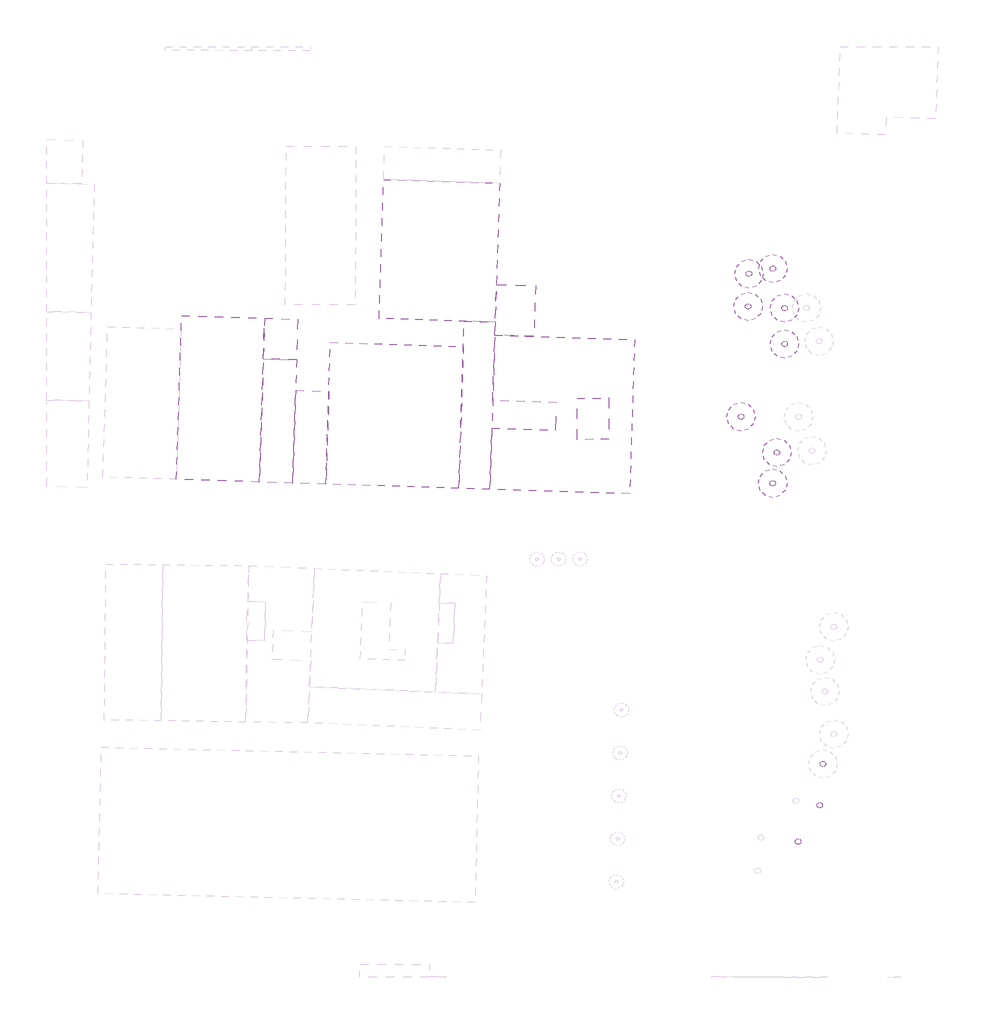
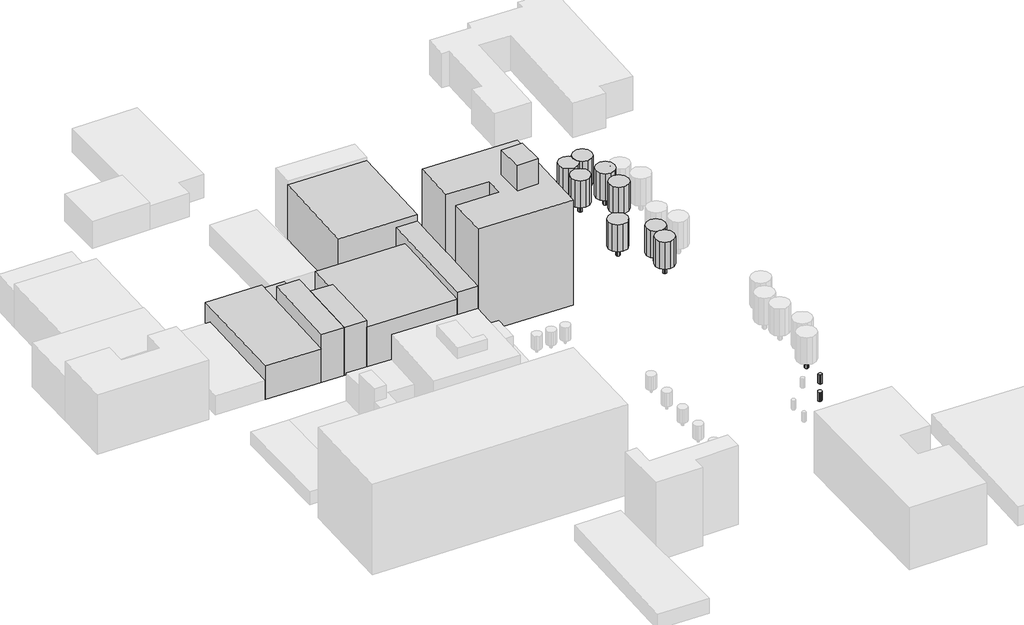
# One storey, part 3 of 4: 29 proxies.
"""IFC4 building model written with IfcOpenShell, lengths in millimetres."""

from ifc_helpers import new_model, si_unit, frame, origin, place, context, project, spatial, polyline, outline, extrude, triangles, element, save

model = new_model("IFC4")

# Units and contexts
model_context = context("Model", 3, world=origin())
ifc_project = project(units=[si_unit("LENGTHUNIT", "METRE", prefix="MILLI")], contexts=[model_context])

# Site, building, storey
site = spatial("IfcSite", under=ifc_project)
building = spatial("IfcBuilding", under=site)
storey = spatial("IfcBuildingStorey", under=building, Name="Terrain Minimum Level", Elevation=-10557.5420791)

# Proxies
placement = place(None, origin())
element("IfcBuildingElementProxy", 1, Name="Generic Models", at=placement, inside=storey, context=model_context, shape_type="Tessellation", body=[
    triangles([(118338.0977051, 115727.7082031, -839.9583956), (118338.0977051, 116337.3082031, -839.9583956), (118114.9671387, 116560.4387695, -839.9583956), (117810.1671387, 116642.1082031, -839.9583956), (117505.3671387, 116560.4387695, -839.9583956), (117505.3671387, 115504.5776367, -839.9583956), (118114.9671387, 115504.5776367, -839.9583956), (117810.1671387, 115422.9082031, -839.9583956), (118114.9671387, 115504.5776367, -3887.9586136), (117810.1671387, 115422.9082031, -3887.9586136), (117282.2365723, 115727.7082031, -3887.9586136), (117810.1671387, 116642.1082031, -3887.9586136), (118114.9671387, 116560.4387695, -3887.9586136), (118338.0977051, 116337.3082031, -3887.9586136), (118419.7671387, 116032.5082031, -3887.9586136), (118338.0977051, 115727.7082031, -3887.9586136), (118419.7671387, 116032.5082031, -839.9583956), (117505.3671387, 116560.4387695, -3887.9586136), (117282.2365723, 116337.3082031, -3887.9586136), (117282.2365723, 116337.3082031, -839.9583956), (117200.5671387, 116032.5082031, -3887.9586136), (117282.2365723, 115727.7082031, -839.9583956), (117200.5671387, 116032.5082031, -839.9583956), (117505.3671387, 115504.5776367, -3887.9586136)], [[16, 17, 1], [16, 15, 17], [9, 1, 7], [9, 16, 1], [10, 7, 8], [10, 9, 7], [24, 8, 6], [24, 10, 8], [11, 6, 22], [11, 24, 6], [21, 22, 23], [21, 11, 22], [19, 23, 20], [19, 21, 23], [18, 20, 5], [18, 19, 20], [12, 5, 4], [12, 18, 5], [13, 4, 3], [13, 12, 4], [14, 3, 2], [14, 13, 3], [15, 2, 17], [15, 14, 2], [14, 15, 16], [12, 13, 14], [19, 18, 12], [11, 21, 19], [10, 24, 11], [16, 9, 10], [12, 14, 16], [11, 19, 12], [16, 10, 11], [11, 12, 16], [1, 4, 22], [22, 8, 1], [4, 20, 22], [1, 2, 4], [8, 7, 1], [22, 6, 8], [20, 23, 22], [4, 5, 20], [2, 3, 4], [1, 17, 2]]),
])
element("IfcBuildingElementProxy", 2, Name="Generic Models", at=placement, inside=storey, context=model_context, shape_type="Tessellation", body=[
    triangles([(120449.8106689, 114508.5082031, 8304.0419678), (120449.8106689, 117556.5082031, 8304.0419678), (119334.1671387, 118672.1517334, 8304.0419678), (117810.1671387, 119080.5082031, 8304.0419678), (116286.1671387, 118672.1517334, 8304.0419678), (116286.1671387, 113392.8646729, 8304.0419678), (119334.1671387, 113392.8646729, 8304.0419678), (117810.1671387, 112984.5082031, 8304.0419678), (119334.1671387, 113392.8646729, -839.9583956), (117810.1671387, 112984.5082031, -839.9583956), (115170.5236084, 114508.5082031, -839.9583956), (117810.1671387, 119080.5082031, -839.9583956), (119334.1671387, 118672.1517334, -839.9583956), (120449.8106689, 117556.5082031, -839.9583956), (120858.1671387, 116032.5082031, -839.9583956), (120449.8106689, 114508.5082031, -839.9583956), (120858.1671387, 116032.5082031, 8304.0419678), (116286.1671387, 118672.1517334, -839.9583956), (115170.5236084, 117556.5082031, -839.9583956), (115170.5236084, 117556.5082031, 8304.0419678), (114762.1671387, 116032.5082031, -839.9583956), (115170.5236084, 114508.5082031, 8304.0419678), (114762.1671387, 116032.5082031, 8304.0419678), (116286.1671387, 113392.8646729, -839.9583956)], [[16, 17, 1], [16, 15, 17], [9, 1, 7], [9, 16, 1], [10, 7, 8], [10, 9, 7], [24, 8, 6], [24, 10, 8], [11, 6, 22], [11, 24, 6], [21, 22, 23], [21, 11, 22], [19, 23, 20], [19, 21, 23], [18, 20, 5], [18, 19, 20], [12, 5, 4], [12, 18, 5], [13, 4, 3], [13, 12, 4], [14, 3, 2], [14, 13, 3], [15, 2, 17], [15, 14, 2], [14, 15, 16], [12, 13, 14], [19, 18, 12], [11, 21, 19], [10, 24, 11], [16, 9, 10], [12, 14, 16], [11, 19, 12], [16, 10, 11], [11, 12, 16], [1, 4, 22], [22, 8, 1], [4, 20, 22], [1, 2, 4], [8, 7, 1], [22, 6, 8], [20, 23, 22], [4, 5, 20], [2, 3, 4], [1, 17, 2]]),
])
element("IfcBuildingElementProxy", 3, Name="Generic Models", at=placement, inside=storey, context=model_context, shape_type="Tessellation", body=[
    triangles([(118504.7386963, 122688.9577148, -1000.6746031), (118504.7386963, 123298.5577148, -1000.6746031), (118281.6081299, 123521.6882813, -1000.6746031), (117976.8081299, 123603.3577148, -1000.6746031), (117672.0081299, 123521.6882813, -1000.6746031), (117672.0081299, 122465.8271484, -1000.6746031), (118281.6081299, 122465.8271484, -1000.6746031), (117976.8081299, 122384.1577148, -1000.6746031), (118281.6081299, 122465.8271484, -4048.6746758), (117976.8081299, 122384.1577148, -4048.6746758), (117448.8775635, 122688.9577148, -4048.6746758), (117976.8081299, 123603.3577148, -4048.6746758), (118281.6081299, 123521.6882813, -4048.6746758), (118504.7386963, 123298.5577148, -4048.6746758), (118586.4081299, 122993.7577148, -4048.6746758), (118504.7386963, 122688.9577148, -4048.6746758), (118586.4081299, 122993.7577148, -1000.6746031), (117672.0081299, 123521.6882813, -4048.6746758), (117448.8775635, 123298.5577148, -4048.6746758), (117448.8775635, 123298.5577148, -1000.6746031), (117367.2081299, 122993.7577148, -4048.6746758), (117448.8775635, 122688.9577148, -1000.6746031), (117367.2081299, 122993.7577148, -1000.6746031), (117672.0081299, 122465.8271484, -4048.6746758)], [[16, 17, 1], [16, 15, 17], [9, 1, 7], [9, 16, 1], [10, 7, 8], [10, 9, 7], [24, 8, 6], [24, 10, 8], [11, 6, 22], [11, 24, 6], [21, 22, 23], [21, 11, 22], [19, 23, 20], [19, 21, 23], [18, 20, 5], [18, 19, 20], [12, 5, 4], [12, 18, 5], [13, 4, 3], [13, 12, 4], [14, 3, 2], [14, 13, 3], [15, 2, 17], [15, 14, 2], [14, 15, 16], [12, 13, 14], [19, 18, 12], [11, 21, 19], [10, 24, 11], [16, 9, 10], [12, 14, 16], [11, 19, 12], [16, 10, 11], [11, 12, 16], [1, 4, 22], [22, 8, 1], [4, 20, 22], [1, 2, 4], [8, 7, 1], [22, 6, 8], [20, 23, 22], [4, 5, 20], [2, 3, 4], [1, 17, 2]]),
])
element("IfcBuildingElementProxy", 4, Name="Generic Models", at=placement, inside=storey, context=model_context, shape_type="Tessellation", body=[
    triangles([(120616.4516602, 121469.7577148, 8143.3256149), (120616.4516602, 124517.7577148, 8143.3256149), (119500.8081299, 125633.4012451, 8143.3256149), (117976.8081299, 126041.7577148, 8143.3256149), (116452.8081299, 125633.4012451, 8143.3256149), (116452.8081299, 120354.1141846, 8143.3256149), (119500.8081299, 120354.1141846, 8143.3256149), (117976.8081299, 119945.7577148, 8143.3256149), (119500.8081299, 120354.1141846, -1000.6746031), (117976.8081299, 119945.7577148, -1000.6746031), (115337.1645996, 121469.7577148, -1000.6746031), (117976.8081299, 126041.7577148, -1000.6746031), (119500.8081299, 125633.4012451, -1000.6746031), (120616.4516602, 124517.7577148, -1000.6746031), (121024.8081299, 122993.7577148, -1000.6746031), (120616.4516602, 121469.7577148, -1000.6746031), (121024.8081299, 122993.7577148, 8143.3256149), (116452.8081299, 125633.4012451, -1000.6746031), (115337.1645996, 124517.7577148, -1000.6746031), (115337.1645996, 124517.7577148, 8143.3256149), (114928.8081299, 122993.7577148, -1000.6746031), (115337.1645996, 121469.7577148, 8143.3256149), (114928.8081299, 122993.7577148, 8143.3256149), (116452.8081299, 120354.1141846, -1000.6746031)], [[16, 17, 1], [16, 15, 17], [9, 1, 7], [9, 16, 1], [10, 7, 8], [10, 9, 7], [24, 8, 6], [24, 10, 8], [11, 6, 22], [11, 24, 6], [21, 22, 23], [21, 11, 22], [19, 23, 20], [19, 21, 23], [18, 20, 5], [18, 19, 20], [12, 5, 4], [12, 18, 5], [13, 4, 3], [13, 12, 4], [14, 3, 2], [14, 13, 3], [15, 2, 17], [15, 14, 2], [14, 15, 16], [12, 13, 14], [19, 18, 12], [11, 21, 19], [10, 24, 11], [16, 9, 10], [12, 14, 16], [11, 19, 12], [16, 10, 11], [11, 12, 16], [1, 4, 22], [22, 8, 1], [4, 20, 22], [1, 2, 4], [8, 7, 1], [22, 6, 8], [20, 23, 22], [4, 5, 20], [2, 3, 4], [1, 17, 2]]),
])
element("IfcBuildingElementProxy", 5, Name="Generic Models", at=placement, inside=storey, context=model_context, shape_type="Tessellation", body=[
    triangles([(126087.6246826, 107750.0463135, -847.6013157), (126087.6246826, 108359.6463135, -847.6013157), (125864.4941162, 108582.7768799, -847.6013157), (125559.6941162, 108664.4463135, -847.6013157), (125254.8941162, 108582.7768799, -847.6013157), (125254.8941162, 107526.9157471, -847.6013157), (125864.4941162, 107526.9157471, -847.6013157), (125559.6941162, 107445.2463135, -847.6013157), (125864.4941162, 107526.9157471, -3895.601461), (125559.6941162, 107445.2463135, -3895.601461), (125031.7728516, 107750.0463135, -3895.601461), (125559.6941162, 108664.4463135, -3895.601461), (125864.4941162, 108582.7768799, -3895.601461), (126087.6246826, 108359.6463135, -3895.601461), (126169.2941162, 108054.8463135, -3895.601461), (126087.6246826, 107750.0463135, -3895.601461), (126169.2941162, 108054.8463135, -847.6013157), (125254.8941162, 108582.7768799, -3895.601461), (125031.7728516, 108359.6463135, -3895.601461), (125031.7728516, 108359.6463135, -847.6013157), (124950.0941162, 108054.8463135, -3895.601461), (125031.7728516, 107750.0463135, -847.6013157), (124950.0941162, 108054.8463135, -847.6013157), (125254.8941162, 107526.9157471, -3895.601461)], [[16, 17, 1], [16, 15, 17], [9, 1, 7], [9, 16, 1], [10, 7, 8], [10, 9, 7], [24, 8, 6], [24, 10, 8], [11, 6, 22], [11, 24, 6], [21, 22, 23], [21, 11, 22], [19, 23, 20], [19, 21, 23], [18, 20, 5], [18, 19, 20], [12, 5, 4], [12, 18, 5], [13, 4, 3], [13, 12, 4], [14, 3, 2], [14, 13, 3], [15, 2, 17], [15, 14, 2], [14, 15, 16], [12, 13, 14], [19, 18, 12], [11, 21, 19], [10, 24, 11], [16, 9, 10], [12, 14, 16], [11, 19, 12], [16, 10, 11], [11, 12, 16], [1, 4, 22], [22, 8, 1], [4, 20, 22], [1, 2, 4], [8, 7, 1], [22, 6, 8], [20, 23, 22], [4, 5, 20], [2, 3, 4], [1, 17, 2]]),
])
element("IfcBuildingElementProxy", 6, Name="Generic Models", at=placement, inside=storey, context=model_context, shape_type="Tessellation", body=[
    triangles([(128199.3469482, 106530.8463135, 8296.3988297), (128199.3469482, 109578.8463135, 8296.3988297), (127083.6941162, 110694.4898438, 8296.3988297), (125559.6941162, 111102.8463135, 8296.3988297), (124035.6941162, 110694.4898438, 8296.3988297), (124035.6941162, 105415.1934814, 8296.3988297), (127083.6941162, 105415.1934814, 8296.3988297), (125559.6941162, 105006.8463135, 8296.3988297), (127083.6941162, 105415.1934814, -847.6013157), (125559.6941162, 105006.8463135, -847.6013157), (122920.0505859, 106530.8463135, -847.6013157), (125559.6941162, 111102.8463135, -847.6013157), (127083.6941162, 110694.4898438, -847.6013157), (128199.3469482, 109578.8463135, -847.6013157), (128607.6941162, 108054.8463135, -847.6013157), (128199.3469482, 106530.8463135, -847.6013157), (128607.6941162, 108054.8463135, 8296.3988297), (124035.6941162, 110694.4898438, -847.6013157), (122920.0505859, 109578.8463135, -847.6013157), (122920.0505859, 109578.8463135, 8296.3988297), (122511.6941162, 108054.8463135, -847.6013157), (122920.0505859, 106530.8463135, 8296.3988297), (122511.6941162, 108054.8463135, 8296.3988297), (124035.6941162, 105415.1934814, -847.6013157)], [[16, 17, 1], [16, 15, 17], [9, 1, 7], [9, 16, 1], [10, 7, 8], [10, 9, 7], [24, 8, 6], [24, 10, 8], [11, 6, 22], [11, 24, 6], [21, 22, 23], [21, 11, 22], [19, 23, 20], [19, 21, 23], [18, 20, 5], [18, 19, 20], [12, 5, 4], [12, 18, 5], [13, 4, 3], [13, 12, 4], [14, 3, 2], [14, 13, 3], [15, 2, 17], [15, 14, 2], [14, 15, 16], [12, 13, 14], [19, 18, 12], [11, 21, 19], [10, 24, 11], [16, 9, 10], [12, 14, 16], [11, 19, 12], [16, 10, 11], [11, 12, 16], [1, 4, 22], [22, 8, 1], [4, 20, 22], [1, 2, 4], [8, 7, 1], [22, 6, 8], [20, 23, 22], [4, 5, 20], [2, 3, 4], [1, 17, 2]]),
])
element("IfcBuildingElementProxy", 7, Name="Generic Models", at=placement, inside=storey, context=model_context, shape_type="Tessellation", body=[
    triangles([(126082.0157227, 115393.9704346, -961.0866852), (126082.0157227, 116003.5704346, -961.0866852), (125858.8851563, 116226.701001, -961.0866852), (125554.0851563, 116308.3704346, -961.0866852), (125249.2851562, 116226.701001, -961.0866852), (125249.2851562, 115170.8398682, -961.0866852), (125858.8851563, 115170.8398682, -961.0866852), (125554.0851563, 115089.1704346, -961.0866852), (125858.8851563, 115170.8398682, -4009.0866852), (125554.0851563, 115089.1704346, -4009.0866852), (125026.1545898, 115393.9704346, -4009.0866852), (125554.0851563, 116308.3704346, -4009.0866852), (125858.8851563, 116226.701001, -4009.0866852), (126082.0157227, 116003.5704346, -4009.0866852), (126163.6851563, 115698.7704346, -4009.0866852), (126082.0157227, 115393.9704346, -4009.0866852), (126163.6851563, 115698.7704346, -961.0866852), (125249.2851562, 116226.701001, -4009.0866852), (125026.1545898, 116003.5704346, -4009.0866852), (125026.1545898, 116003.5704346, -961.0866852), (124944.4851563, 115698.7704346, -4009.0866852), (125026.1545898, 115393.9704346, -961.0866852), (124944.4851563, 115698.7704346, -961.0866852), (125249.2851562, 115170.8398682, -4009.0866852)], [[16, 17, 1], [16, 15, 17], [9, 1, 7], [9, 16, 1], [10, 7, 8], [10, 9, 7], [24, 8, 6], [24, 10, 8], [11, 6, 22], [11, 24, 6], [21, 22, 23], [21, 11, 22], [19, 23, 20], [19, 21, 23], [18, 20, 5], [18, 19, 20], [12, 5, 4], [12, 18, 5], [13, 4, 3], [13, 12, 4], [14, 3, 2], [14, 13, 3], [15, 2, 17], [15, 14, 2], [14, 15, 16], [12, 13, 14], [19, 18, 12], [11, 21, 19], [10, 24, 11], [16, 9, 10], [12, 14, 16], [11, 19, 12], [16, 10, 11], [11, 12, 16], [1, 4, 22], [22, 8, 1], [4, 20, 22], [1, 2, 4], [8, 7, 1], [22, 6, 8], [20, 23, 22], [4, 5, 20], [2, 3, 4], [1, 17, 2]]),
])
element("IfcBuildingElementProxy", 8, Name="Generic Models", at=placement, inside=storey, context=model_context, shape_type="Tessellation", body=[
    triangles([(128193.7286865, 114174.7704346, 8182.9138962), (128193.7286865, 117222.7704346, 8182.9138962), (127078.0851563, 118338.4139648, 8182.9138962), (125554.0851563, 118746.7704346, 8182.9138962), (124030.0851563, 118338.4139648, 8182.9138962), (124030.0851563, 113059.1176025, 8182.9138962), (127078.0851563, 113059.1176025, 8182.9138962), (125554.0851563, 112650.7704346, 8182.9138962), (127078.0851563, 113059.1176025, -961.0866852), (125554.0851563, 112650.7704346, -961.0866852), (122914.441626, 114174.7704346, -961.0866852), (125554.0851563, 118746.7704346, -961.0866852), (127078.0851563, 118338.4139648, -961.0866852), (128193.7286865, 117222.7704346, -961.0866852), (128602.0851563, 115698.7704346, -961.0866852), (128193.7286865, 114174.7704346, -961.0866852), (128602.0851563, 115698.7704346, 8182.9138962), (124030.0851563, 118338.4139648, -961.0866852), (122914.441626, 117222.7704346, -961.0866852), (122914.441626, 117222.7704346, 8182.9138962), (122506.0851563, 115698.7704346, -961.0866852), (122914.441626, 114174.7704346, 8182.9138962), (122506.0851563, 115698.7704346, 8182.9138962), (124030.0851563, 113059.1176025, -961.0866852)], [[16, 17, 1], [16, 15, 17], [9, 1, 7], [9, 16, 1], [10, 7, 8], [10, 9, 7], [24, 8, 6], [24, 10, 8], [11, 6, 22], [11, 24, 6], [21, 22, 23], [21, 11, 22], [19, 23, 20], [19, 21, 23], [18, 20, 5], [18, 19, 20], [12, 5, 4], [12, 18, 5], [13, 4, 3], [13, 12, 4], [14, 3, 2], [14, 13, 3], [15, 2, 17], [15, 14, 2], [14, 15, 16], [12, 13, 14], [19, 18, 12], [11, 21, 19], [10, 24, 11], [16, 9, 10], [12, 14, 16], [11, 19, 12], [16, 10, 11], [11, 12, 16], [1, 4, 22], [22, 8, 1], [4, 20, 22], [1, 2, 4], [8, 7, 1], [22, 6, 8], [20, 23, 22], [4, 5, 20], [2, 3, 4], [1, 17, 2]]),
])
element("IfcBuildingElementProxy", 9, Name="Generic Models", at=placement, inside=storey, context=model_context, shape_type="Tessellation", body=[
    triangles([(123604.0274414, 123806.5360107, -971.3971024), (123604.0274414, 124416.1360107, -971.3971024), (123380.9061768, 124639.2665771, -971.3971024), (123076.1061768, 124720.9360107, -971.3971024), (122771.3061768, 124639.2665771, -971.3971024), (122771.3061768, 123583.4054443, -971.3971024), (123380.9061768, 123583.4054443, -971.3971024), (123076.1061768, 123501.7360107, -971.3971024), (123380.9061768, 123583.4054443, -4019.3971024), (123076.1061768, 123501.7360107, -4019.3971024), (122548.1756104, 123806.5360107, -4019.3971024), (123076.1061768, 124720.9360107, -4019.3971024), (123380.9061768, 124639.2665771, -4019.3971024), (123604.0274414, 124416.1360107, -4019.3971024), (123685.7061768, 124111.3360107, -4019.3971024), (123604.0274414, 123806.5360107, -4019.3971024), (123685.7061768, 124111.3360107, -971.3971024), (122771.3061768, 124639.2665771, -4019.3971024), (122548.1756104, 124416.1360107, -4019.3971024), (122548.1756104, 124416.1360107, -971.3971024), (122466.5061768, 124111.3360107, -4019.3971024), (122548.1756104, 123806.5360107, -971.3971024), (122466.5061768, 124111.3360107, -971.3971024), (122771.3061768, 123583.4054443, -4019.3971024)], [[16, 17, 1], [16, 15, 17], [9, 1, 7], [9, 16, 1], [10, 7, 8], [10, 9, 7], [24, 8, 6], [24, 10, 8], [11, 6, 22], [11, 24, 6], [21, 22, 23], [21, 11, 22], [19, 23, 20], [19, 21, 23], [18, 20, 5], [18, 19, 20], [12, 5, 4], [12, 18, 5], [13, 4, 3], [13, 12, 4], [14, 3, 2], [14, 13, 3], [15, 2, 17], [15, 14, 2], [14, 15, 16], [12, 13, 14], [19, 18, 12], [11, 21, 19], [10, 24, 11], [16, 9, 10], [12, 14, 16], [11, 19, 12], [16, 10, 11], [11, 12, 16], [1, 4, 22], [22, 8, 1], [4, 20, 22], [1, 2, 4], [8, 7, 1], [22, 6, 8], [20, 23, 22], [4, 5, 20], [2, 3, 4], [1, 17, 2]]),
])
element("IfcBuildingElementProxy", 10, Name="Generic Models", at=placement, inside=storey, context=model_context, shape_type="Tessellation", body=[
    triangles([(125715.749707, 122587.3360107, 8172.603479), (125715.749707, 125635.3360107, 8172.603479), (124600.1061768, 126750.979541, 8172.603479), (123076.1061768, 127159.3360107, 8172.603479), (121552.1061768, 126750.979541, 8172.603479), (121552.1061768, 121471.6924805, 8172.603479), (124600.1061768, 121471.6924805, 8172.603479), (123076.1061768, 121063.3360107, 8172.603479), (124600.1061768, 121471.6924805, -971.3971024), (123076.1061768, 121063.3360107, -971.3971024), (120436.4533447, 122587.3360107, -971.3971024), (123076.1061768, 127159.3360107, -971.3971024), (124600.1061768, 126750.979541, -971.3971024), (125715.749707, 125635.3360107, -971.3971024), (126124.1061768, 124111.3360107, -971.3971024), (125715.749707, 122587.3360107, -971.3971024), (126124.1061768, 124111.3360107, 8172.603479), (121552.1061768, 126750.979541, -971.3971024), (120436.4533447, 125635.3360107, -971.3971024), (120436.4533447, 125635.3360107, 8172.603479), (120028.1061768, 124111.3360107, -971.3971024), (120436.4533447, 122587.3360107, 8172.603479), (120028.1061768, 124111.3360107, 8172.603479), (121552.1061768, 121471.6924805, -971.3971024)], [[16, 17, 1], [16, 15, 17], [9, 1, 7], [9, 16, 1], [10, 7, 8], [10, 9, 7], [24, 8, 6], [24, 10, 8], [11, 6, 22], [11, 24, 6], [21, 22, 23], [21, 11, 22], [19, 23, 20], [19, 21, 23], [18, 20, 5], [18, 19, 20], [12, 5, 4], [12, 18, 5], [13, 4, 3], [13, 12, 4], [14, 3, 2], [14, 13, 3], [15, 2, 17], [15, 14, 2], [14, 15, 16], [12, 13, 14], [19, 18, 12], [11, 21, 19], [10, 24, 11], [16, 9, 10], [12, 14, 16], [11, 19, 12], [16, 10, 11], [11, 12, 16], [1, 4, 22], [22, 8, 1], [4, 20, 22], [1, 2, 4], [8, 7, 1], [22, 6, 8], [20, 23, 22], [4, 5, 20], [2, 3, 4], [1, 17, 2]]),
])
element("IfcBuildingElementProxy", 11, Name="Generic Models", at=placement, inside=storey, context=model_context, shape_type="Tessellation", body=[
    triangles([(116827.9015137, 92269.019165, -912.0074862), (116827.9015137, 92878.619165, -912.0074862), (116604.780249, 93101.7497314, -912.0074862), (116299.980249, 93183.419165, -912.0074862), (115995.180249, 93101.7497314, -912.0074862), (115995.180249, 92045.8885986, -912.0074862), (116604.780249, 92045.8885986, -912.0074862), (116299.980249, 91964.219165, -912.0074862), (116604.780249, 92045.8885986, -3960.0077042), (116299.980249, 91964.219165, -3960.0077042), (115772.0496826, 92269.019165, -3960.0077042), (116299.980249, 93183.419165, -3960.0077042), (116604.780249, 93101.7497314, -3960.0077042), (116827.9015137, 92878.619165, -3960.0077042), (116909.580249, 92573.819165, -3960.0077042), (116827.9015137, 92269.019165, -3960.0077042), (116909.580249, 92573.819165, -912.0074862), (115995.180249, 93101.7497314, -3960.0077042), (115772.0496826, 92878.619165, -3960.0077042), (115772.0496826, 92878.619165, -912.0074862), (115690.380249, 92573.819165, -3960.0077042), (115772.0496826, 92269.019165, -912.0074862), (115690.380249, 92573.819165, -912.0074862), (115995.180249, 92045.8885986, -3960.0077042)], [[16, 17, 1], [16, 15, 17], [9, 1, 7], [9, 16, 1], [10, 7, 8], [10, 9, 7], [24, 8, 6], [24, 10, 8], [11, 6, 22], [11, 24, 6], [21, 22, 23], [21, 11, 22], [19, 23, 20], [19, 21, 23], [18, 20, 5], [18, 19, 20], [12, 5, 4], [12, 18, 5], [13, 4, 3], [13, 12, 4], [14, 3, 2], [14, 13, 3], [15, 2, 17], [15, 14, 2], [14, 15, 16], [12, 13, 14], [19, 18, 12], [11, 21, 19], [10, 24, 11], [16, 9, 10], [12, 14, 16], [11, 19, 12], [16, 10, 11], [11, 12, 16], [1, 4, 22], [22, 8, 1], [4, 20, 22], [1, 2, 4], [8, 7, 1], [22, 6, 8], [20, 23, 22], [4, 5, 20], [2, 3, 4], [1, 17, 2]]),
])
element("IfcBuildingElementProxy", 12, Name="Generic Models", at=placement, inside=storey, context=model_context, shape_type="Tessellation", body=[
    triangles([(118939.6237793, 91049.819165, 8231.9928772), (118939.6237793, 94097.819165, 8231.9928772), (117823.980249, 95213.4626953, 8231.9928772), (116299.980249, 95621.819165, 8231.9928772), (114775.980249, 95213.4626953, 8231.9928772), (114775.980249, 89934.1756348, 8231.9928772), (117823.980249, 89934.1756348, 8231.9928772), (116299.980249, 89525.819165, 8231.9928772), (117823.980249, 89934.1756348, -912.0074862), (116299.980249, 89525.819165, -912.0074862), (113660.327417, 91049.819165, -912.0074862), (116299.980249, 95621.819165, -912.0074862), (117823.980249, 95213.4626953, -912.0074862), (118939.6237793, 94097.819165, -912.0074862), (119347.980249, 92573.819165, -912.0074862), (118939.6237793, 91049.819165, -912.0074862), (119347.980249, 92573.819165, 8231.9928772), (114775.980249, 95213.4626953, -912.0074862), (113660.327417, 94097.819165, -912.0074862), (113660.327417, 94097.819165, 8231.9928772), (113251.980249, 92573.819165, -912.0074862), (113660.327417, 91049.819165, 8231.9928772), (113251.980249, 92573.819165, 8231.9928772), (114775.980249, 89934.1756348, -912.0074862)], [[16, 17, 1], [16, 15, 17], [9, 1, 7], [9, 16, 1], [10, 7, 8], [10, 9, 7], [24, 8, 6], [24, 10, 8], [11, 6, 22], [11, 24, 6], [21, 22, 23], [21, 11, 22], [19, 23, 20], [19, 21, 23], [18, 20, 5], [18, 19, 20], [12, 5, 4], [12, 18, 5], [13, 4, 3], [13, 12, 4], [14, 3, 2], [14, 13, 3], [15, 2, 17], [15, 14, 2], [14, 15, 16], [12, 13, 14], [19, 18, 12], [11, 21, 19], [10, 24, 11], [16, 9, 10], [12, 14, 16], [11, 19, 12], [16, 10, 11], [11, 12, 16], [1, 4, 22], [22, 8, 1], [4, 20, 22], [1, 2, 4], [8, 7, 1], [22, 6, 8], [20, 23, 22], [4, 5, 20], [2, 3, 4], [1, 17, 2]]),
])
element("IfcBuildingElementProxy", 13, Name="Generic Models", at=placement, inside=storey, context=model_context, shape_type="Tessellation", body=[
    triangles([(123562.6253174, 78118.3945312, -570.8405562), (123562.6253174, 78727.9945313, -570.8405562), (123339.494751, 78951.1157959, -570.8405562), (123034.694751, 79032.7945313, -570.8405562), (122729.894751, 78951.1157959, -570.8405562), (122729.894751, 77895.259314, -570.8405562), (123339.494751, 77895.259314, -570.8405562), (123034.694751, 77813.5898804, -570.8405562), (123339.494751, 77895.259314, -3618.8407379), (123034.694751, 77813.5898804, -3618.8407379), (122506.7641846, 78118.3945312, -3618.8407379), (123034.694751, 79032.7945313, -3618.8407379), (123339.494751, 78951.1157959, -3618.8407379), (123562.6253174, 78727.9945313, -3618.8407379), (123644.294751, 78423.1945313, -3618.8407379), (123562.6253174, 78118.3945312, -3618.8407379), (123644.294751, 78423.1945313, -570.8405562), (122729.894751, 78951.1157959, -3618.8407379), (122506.7641846, 78727.9945313, -3618.8407379), (122506.7641846, 78727.9945313, -570.8405562), (122425.094751, 78423.1945313, -3618.8407379), (122506.7641846, 78118.3945312, -570.8405562), (122425.094751, 78423.1945313, -570.8405562), (122729.894751, 77895.259314, -3618.8407379)], [[16, 17, 1], [16, 15, 17], [9, 1, 7], [9, 16, 1], [10, 7, 8], [10, 9, 7], [24, 8, 6], [24, 10, 8], [11, 6, 22], [11, 24, 6], [21, 22, 23], [21, 11, 22], [19, 23, 20], [19, 21, 23], [18, 20, 5], [18, 19, 20], [12, 5, 4], [12, 18, 5], [13, 4, 3], [13, 12, 4], [14, 3, 2], [14, 13, 3], [15, 2, 17], [15, 14, 2], [14, 15, 16], [12, 13, 14], [19, 18, 12], [11, 21, 19], [10, 24, 11], [16, 9, 10], [12, 14, 16], [11, 19, 12], [16, 10, 11], [11, 12, 16], [1, 4, 22], [22, 8, 1], [4, 20, 22], [1, 2, 4], [8, 7, 1], [22, 6, 8], [20, 23, 22], [4, 5, 20], [2, 3, 4], [1, 17, 2]]),
])
element("IfcBuildingElementProxy", 14, Name="Generic Models", at=placement, inside=storey, context=model_context, shape_type="Tessellation", body=[
    triangles([(125674.3382813, 76899.1898804, 8573.1598434), (125674.3382813, 79947.1945313, 8573.1598434), (124558.694751, 81062.8380615, 8573.1598434), (123034.694751, 81471.1945313, 8573.1598434), (121510.694751, 81062.8380615, 8573.1598434), (121510.694751, 75783.5463501, 8573.1598434), (124558.694751, 75783.5463501, 8573.1598434), (123034.694751, 75375.1898804, 8573.1598434), (124558.694751, 75783.5463501, -570.8405562), (123034.694751, 75375.1898804, -570.8405562), (120395.0512207, 76899.1898804, -570.8405562), (123034.694751, 81471.1945313, -570.8405562), (124558.694751, 81062.8380615, -570.8405562), (125674.3382813, 79947.1945313, -570.8405562), (126082.694751, 78423.1945313, -570.8405562), (125674.3382813, 76899.1898804, -570.8405562), (126082.694751, 78423.1945313, 8573.1598434), (121510.694751, 81062.8380615, -570.8405562), (120395.0512207, 79947.1945313, -570.8405562), (120395.0512207, 79947.1945313, 8573.1598434), (119986.694751, 78423.1945313, -570.8405562), (120395.0512207, 76899.1898804, 8573.1598434), (119986.694751, 78423.1945313, 8573.1598434), (121510.694751, 75783.5463501, -570.8405562)], [[16, 17, 1], [16, 15, 17], [9, 1, 7], [9, 16, 1], [10, 7, 8], [10, 9, 7], [24, 8, 6], [24, 10, 8], [11, 6, 22], [11, 24, 6], [21, 22, 23], [21, 11, 22], [19, 23, 20], [19, 21, 23], [18, 20, 5], [18, 19, 20], [12, 5, 4], [12, 18, 5], [13, 4, 3], [13, 12, 4], [14, 3, 2], [14, 13, 3], [15, 2, 17], [15, 14, 2], [14, 15, 16], [12, 13, 14], [19, 18, 12], [11, 21, 19], [10, 24, 11], [16, 9, 10], [12, 14, 16], [11, 19, 12], [16, 10, 11], [11, 12, 16], [1, 4, 22], [22, 8, 1], [4, 20, 22], [1, 2, 4], [8, 7, 1], [22, 6, 8], [20, 23, 22], [4, 5, 20], [2, 3, 4], [1, 17, 2]]),
])
element("IfcBuildingElementProxy", 15, Name="Generic Models", at=placement, inside=storey, context=model_context, shape_type="Tessellation", body=[
    triangles([(124447.9015137, 84649.019165, -1115.059409), (124447.9015137, 85258.619165, -1115.059409), (124224.780249, 85481.7497314, -1115.059409), (123919.980249, 85563.419165, -1115.059409), (123615.180249, 85481.7497314, -1115.059409), (123615.180249, 84425.8885986, -1115.059409), (124224.780249, 84425.8885986, -1115.059409), (123919.980249, 84344.219165, -1115.059409), (124224.780249, 84425.8885986, -4163.0595543), (123919.980249, 84344.219165, -4163.0595543), (123392.0496826, 84649.019165, -4163.0595543), (123919.980249, 85563.419165, -4163.0595543), (124224.780249, 85481.7497314, -4163.0595543), (124447.9015137, 85258.619165, -4163.0595543), (124529.580249, 84953.819165, -4163.0595543), (124447.9015137, 84649.019165, -4163.0595543), (124529.580249, 84953.819165, -1115.059409), (123615.180249, 85481.7497314, -4163.0595543), (123392.0496826, 85258.619165, -4163.0595543), (123392.0496826, 85258.619165, -1115.059409), (123310.380249, 84953.819165, -4163.0595543), (123392.0496826, 84649.019165, -1115.059409), (123310.380249, 84953.819165, -1115.059409), (123615.180249, 84425.8885986, -4163.0595543)], [[16, 17, 1], [16, 15, 17], [9, 1, 7], [9, 16, 1], [10, 7, 8], [10, 9, 7], [24, 8, 6], [24, 10, 8], [11, 6, 22], [11, 24, 6], [21, 22, 23], [21, 11, 22], [19, 23, 20], [19, 21, 23], [18, 20, 5], [18, 19, 20], [12, 5, 4], [12, 18, 5], [13, 4, 3], [13, 12, 4], [14, 3, 2], [14, 13, 3], [15, 2, 17], [15, 14, 2], [14, 15, 16], [12, 13, 14], [19, 18, 12], [11, 21, 19], [10, 24, 11], [16, 9, 10], [12, 14, 16], [11, 19, 12], [16, 10, 11], [11, 12, 16], [1, 4, 22], [22, 8, 1], [4, 20, 22], [1, 2, 4], [8, 7, 1], [22, 6, 8], [20, 23, 22], [4, 5, 20], [2, 3, 4], [1, 17, 2]]),
])
element("IfcBuildingElementProxy", 16, Name="Generic Models", at=placement, inside=storey, context=model_context, shape_type="Tessellation", body=[
    triangles([(126559.6237793, 83429.819165, 8028.9407364), (126559.6237793, 86477.819165, 8028.9407364), (125443.980249, 87593.4626953, 8028.9407364), (123919.980249, 88001.819165, 8028.9407364), (122395.980249, 87593.4626953, 8028.9407364), (122395.980249, 82314.1756348, 8028.9407364), (125443.980249, 82314.1756348, 8028.9407364), (123919.980249, 81905.819165, 8028.9407364), (125443.980249, 82314.1756348, -1115.059409), (123919.980249, 81905.819165, -1115.059409), (121280.327417, 83429.819165, -1115.059409), (123919.980249, 88001.819165, -1115.059409), (125443.980249, 87593.4626953, -1115.059409), (126559.6237793, 86477.819165, -1115.059409), (126967.980249, 84953.819165, -1115.059409), (126559.6237793, 83429.819165, -1115.059409), (126967.980249, 84953.819165, 8028.9407364), (122395.980249, 87593.4626953, -1115.059409), (121280.327417, 86477.819165, -1115.059409), (121280.327417, 86477.819165, 8028.9407364), (120871.980249, 84953.819165, -1115.059409), (121280.327417, 83429.819165, 8028.9407364), (120871.980249, 84953.819165, 8028.9407364), (122395.980249, 82314.1756348, -1115.059409)], [[16, 17, 1], [16, 15, 17], [9, 1, 7], [9, 16, 1], [10, 7, 8], [10, 9, 7], [24, 8, 6], [24, 10, 8], [11, 6, 22], [11, 24, 6], [21, 22, 23], [21, 11, 22], [19, 23, 20], [19, 21, 23], [18, 20, 5], [18, 19, 20], [12, 5, 4], [12, 18, 5], [13, 4, 3], [13, 12, 4], [14, 3, 2], [14, 13, 3], [15, 2, 17], [15, 14, 2], [14, 15, 16], [12, 13, 14], [19, 18, 12], [11, 21, 19], [10, 24, 11], [16, 9, 10], [12, 14, 16], [11, 19, 12], [16, 10, 11], [11, 12, 16], [1, 4, 22], [22, 8, 1], [4, 20, 22], [1, 2, 4], [8, 7, 1], [22, 6, 8], [20, 23, 22], [4, 5, 20], [2, 3, 4], [1, 17, 2]]),
])
element("IfcBuildingElementProxy", 17, Name="Generic Models", at=placement, inside=storey, context=model_context, shape_type="Tessellation", body=[
    triangles([(128962.5282715, 1836.8018372, 666.1628265), (128962.5282715, 2446.4018372, 666.1628265), (128739.3977051, 2669.5309502, 666.1628265), (128434.5977051, 2751.2018372, 666.1628265), (128129.7977051, 2669.5309502, 666.1628265), (128129.7977051, 1613.6727242, 666.1628265), (128739.3977051, 1613.6727242, 666.1628265), (128434.5977051, 1532.0018372, 666.1628265), (128739.3977051, 1613.6727242, -2381.8373188), (128434.5977051, 1532.0018372, -2381.8373188), (127906.6671387, 1836.8018372, -2381.8373188), (128434.5977051, 2751.2018372, -2381.8373188), (128739.3977051, 2669.5309502, -2381.8373188), (128962.5282715, 2446.4018372, -2381.8373188), (129044.1977051, 2141.6018372, -2381.8373188), (128962.5282715, 1836.8018372, -2381.8373188), (129044.1977051, 2141.6018372, 666.1628265), (128129.7977051, 2669.5309502, -2381.8373188), (127906.6671387, 2446.4018372, -2381.8373188), (127906.6671387, 2446.4018372, 666.1628265), (127824.9977051, 2141.6018372, -2381.8373188), (127906.6671387, 1836.8018372, 666.1628265), (127824.9977051, 2141.6018372, 666.1628265), (128129.7977051, 1613.6727242, -2381.8373188)], [[16, 17, 1], [16, 15, 17], [9, 1, 7], [9, 16, 1], [10, 7, 8], [10, 9, 7], [24, 8, 6], [24, 10, 8], [11, 6, 22], [11, 24, 6], [21, 22, 23], [21, 11, 22], [19, 23, 20], [19, 21, 23], [18, 20, 5], [18, 19, 20], [12, 5, 4], [12, 18, 5], [13, 4, 3], [13, 12, 4], [14, 3, 2], [14, 13, 3], [15, 2, 17], [15, 14, 2], [14, 15, 16], [12, 13, 14], [19, 18, 12], [11, 21, 19], [10, 24, 11], [16, 9, 10], [12, 14, 16], [11, 19, 12], [16, 10, 11], [11, 12, 16], [1, 4, 22], [22, 8, 1], [4, 20, 22], [1, 2, 4], [8, 7, 1], [22, 6, 8], [20, 23, 22], [4, 5, 20], [2, 3, 4], [1, 17, 2]]),
])
element("IfcBuildingElementProxy", 18, Name="Generic Models", at=placement, inside=storey, context=model_context, shape_type="Tessellation", body=[
    triangles([(133538.6489502, 9559.6676514, 186.1152386), (133538.6489502, 10169.2676514, 186.1152386), (133315.5183838, 10392.3970551, 186.1152386), (133010.7183838, 10474.0676514, 186.1152386), (132705.9183838, 10392.3970551, 186.1152386), (132705.9183838, 9336.5382477, 186.1152386), (133315.5183838, 9336.5382477, 186.1152386), (133010.7183838, 9254.8676514, 186.1152386), (133315.5183838, 9336.5382477, -2861.8849068), (133010.7183838, 9254.8676514, -2861.8849068), (132482.7878174, 9559.6676514, -2861.8849068), (133010.7183838, 10474.0676514, -2861.8849068), (133315.5183838, 10392.3970551, -2861.8849068), (133538.6489502, 10169.2676514, -2861.8849068), (133620.3183838, 9864.4676514, -2861.8849068), (133538.6489502, 9559.6676514, -2861.8849068), (133620.3183838, 9864.4676514, 186.1152386), (132705.9183838, 10392.3970551, -2861.8849068), (132482.7878174, 10169.2676514, -2861.8849068), (132482.7878174, 10169.2676514, 186.1152386), (132401.1183838, 9864.4676514, -2861.8849068), (132482.7878174, 9559.6676514, 186.1152386), (132401.1183838, 9864.4676514, 186.1152386), (132705.9183838, 9336.5382477, -2861.8849068)], [[16, 17, 1], [16, 15, 17], [9, 1, 7], [9, 16, 1], [10, 7, 8], [10, 9, 7], [24, 8, 6], [24, 10, 8], [11, 6, 22], [11, 24, 6], [21, 22, 23], [21, 11, 22], [19, 23, 20], [19, 21, 23], [18, 20, 5], [18, 19, 20], [12, 5, 4], [12, 18, 5], [13, 4, 3], [13, 12, 4], [14, 3, 2], [14, 13, 3], [15, 2, 17], [15, 14, 2], [14, 15, 16], [12, 13, 14], [19, 18, 12], [11, 21, 19], [10, 24, 11], [16, 9, 10], [12, 14, 16], [11, 19, 12], [16, 10, 11], [11, 12, 16], [1, 4, 22], [22, 8, 1], [4, 20, 22], [1, 2, 4], [8, 7, 1], [22, 6, 8], [20, 23, 22], [4, 5, 20], [2, 3, 4], [1, 17, 2]]),
])
element("IfcBuildingElementProxy", 19, Name="Generic Models", at=placement, inside=storey, context=model_context, shape_type="Tessellation", body=[
    triangles([(134251.8147217, 18360.9478729, -211.9631885), (134251.8147217, 18970.5478729, -211.9631885), (134028.6841553, 19193.6761139, -211.9631885), (133723.8841553, 19275.3478729, -211.9631885), (133419.0841553, 19193.6761139, -211.9631885), (133419.0841553, 18137.8184692, -211.9631885), (134028.6841553, 18137.8184692, -211.9631885), (133723.8841553, 18056.1478729, -211.9631885), (134028.6841553, 18137.8184692, -3259.9632248), (133723.8841553, 18056.1478729, -3259.9632248), (133195.9628906, 18360.9478729, -3259.9632248), (133723.8841553, 19275.3478729, -3259.9632248), (134028.6841553, 19193.6761139, -3259.9632248), (134251.8147217, 18970.5478729, -3259.9632248), (134333.4841553, 18665.7478729, -3259.9632248), (134251.8147217, 18360.9478729, -3259.9632248), (134333.4841553, 18665.7478729, -211.9631885), (133419.0841553, 19193.6761139, -3259.9632248), (133195.9628906, 18970.5478729, -3259.9632248), (133195.9628906, 18970.5478729, -211.9631885), (133114.2841553, 18665.7478729, -3259.9632248), (133195.9628906, 18360.9478729, -211.9631885), (133114.2841553, 18665.7478729, -211.9631885), (133419.0841553, 18137.8184692, -3259.9632248)], [[16, 17, 1], [16, 15, 17], [9, 1, 7], [9, 16, 1], [10, 7, 8], [10, 9, 7], [24, 8, 6], [24, 10, 8], [11, 6, 22], [11, 24, 6], [21, 22, 23], [21, 11, 22], [19, 23, 20], [19, 21, 23], [18, 20, 5], [18, 19, 20], [12, 5, 4], [12, 18, 5], [13, 4, 3], [13, 12, 4], [14, 3, 2], [14, 13, 3], [15, 2, 17], [15, 14, 2], [14, 15, 16], [12, 13, 14], [19, 18, 12], [11, 21, 19], [10, 24, 11], [16, 9, 10], [12, 14, 16], [11, 19, 12], [16, 10, 11], [11, 12, 16], [1, 4, 22], [22, 8, 1], [4, 20, 22], [1, 2, 4], [8, 7, 1], [22, 6, 8], [20, 23, 22], [4, 5, 20], [2, 3, 4], [1, 17, 2]]),
])
element("IfcBuildingElementProxy", 20, Name="Generic Models", at=placement, inside=storey, context=model_context, shape_type="SweptSolid", body=[
    extrude(outline(polyline([(63971.0615795, 112693.7832165), (39258.0685617, 113477.4579135), (40195.9740766, 143054.0826635), (64908.9670943, 142270.4079665), (63971.0615795, 112693.7832165)])), frame((0.0, 0.0, -2601.5139032), z_axis=(0.0, 0.0, 1.0), x_axis=(1.0, 0.0, 0.0)), (0.0, 0.0, 1.0), 18288.0),
])
element("IfcBuildingElementProxy", 21, Name="Generic Models", at=placement, inside=storey, context=model_context, shape_type="SweptSolid", body=[
    extrude(outline(polyline([(63883.3134479, 109926.6651562), (64225.17505, 120707.1946125), (72549.8491706, 120443.2106919), (72207.9875685, 109662.6812356), (63883.3134479, 109926.6651562)])), frame((0.0, 0.0, -2601.5139032), z_axis=(0.0, 0.0, 1.0), x_axis=(1.0, 0.0, 0.0)), (0.0, 0.0, 1.0), 5181.6),
])
element("IfcBuildingElementProxy", 22, Name="Generic Models", at=placement, inside=storey, context=model_context, shape_type="SweptSolid", body=[
    extrude(outline(polyline([(81396.0312953, 96515.1622528), (88088.9719055, 96566.1189473), (88156.0693938, 87753.1551536), (81463.1287835, 87702.1984591), (81396.0312953, 96515.1622528)])), frame((0.0, 0.0, -2973.0185525), z_axis=(0.0, 0.0, 1.0), x_axis=(1.0, 0.0, 0.0)), (0.0, 0.0, 1.0), 44196.0),
])
element("IfcBuildingElementProxy", 23, Name="Generic Models", at=placement, inside=storey, context=model_context, shape_type="SweptSolid", body=[
    extrude(outline(polyline([(63441.327325, 95988.7404949), (63883.3132424, 109926.6657072), (93619.7915387, 108983.6914524), (92579.5164731, 76178.8542545), (62843.0381768, 77121.8285093), (63256.0150054, 90144.9587164), (76837.0026006, 89714.2916573), (77022.3149202, 95558.0734357), (63441.327325, 95988.7404949)])), frame((0.0, 0.0, -2601.5139277), z_axis=(0.0, 0.0, 1.0), x_axis=(1.0, 0.0, 0.0)), (0.0, 0.0, 1.0), 35356.8),
])
element("IfcBuildingElementProxy", 24, Name="Generic Models", at=placement, inside=storey, context=model_context, shape_type="SweptSolid", body=[
    extrude(outline(polyline([(62843.0386218, 77121.8288896), (56225.7602885, 77331.6695455), (57353.7832905, 112903.6235908), (63971.0616238, 112693.7829348), (62843.0386218, 77121.8288896)])), frame((0.0, 0.0, -2601.5139673), z_axis=(0.0, 0.0, 1.0), x_axis=(1.0, 0.0, 0.0)), (0.0, 0.0, 1.0), 16154.4),
])
element("IfcBuildingElementProxy", 25, Name="Generic Models", at=placement, inside=storey, context=model_context, shape_type="SweptSolid", body=[
    extrude(outline(polyline([(57182.5063887, 107502.4460356), (56225.7603328, 77331.6692639), (27925.7953408, 78229.0899731), (28882.5413967, 108399.8667448), (57182.5063887, 107502.4460356)])), frame((0.0, 0.0, -2601.5139032), z_axis=(0.0, 0.0, 1.0), x_axis=(1.0, 0.0, 0.0)), (0.0, 0.0, 1.0), 14020.8),
])
element("IfcBuildingElementProxy", 26, Name="Generic Models", at=placement, inside=storey, context=model_context, shape_type="SweptSolid", body=[
    extrude(outline(polyline([(28551.695209, 97966.7183331), (27925.7948848, 78229.0902623), (20847.1070444, 78453.562676), (21473.0073685, 98191.1907468), (28551.695209, 97966.7183331)])), frame((0.0, 0.0, -2601.5137217), z_axis=(0.0, 0.0, 1.0), x_axis=(1.0, 0.0, 0.0)), (0.0, 0.0, 1.0), 16154.4),
])
element("IfcBuildingElementProxy", 27, Name="Generic Models", at=placement, inside=storey, context=model_context, shape_type="SweptSolid", body=[
    extrude(outline(polyline([(21473.007427, 98191.1909959), (20847.1071585, 78453.5630128), (13790.4517473, 78677.3367368), (14621.9019285, 104896.9362305), (21678.5573398, 104673.1625065), (21473.007427, 98191.1909959)])), frame((0.0, 0.0, -2601.5136576), z_axis=(0.0, 0.0, 1.0), x_axis=(1.0, 0.0, 0.0)), (0.0, 0.0, 1.0), 16154.3998718),
])
element("IfcBuildingElementProxy", 28, Name="Generic Models", at=placement, inside=storey, context=model_context, shape_type="SweptSolid", body=[
    extrude(outline(polyline([(21678.5572397, 104673.1629823), (14621.9018328, 104896.9359849), (14895.8246835, 113535.0609738), (21952.4800905, 113311.2879712), (21678.5572397, 104673.1629823)])), frame((0.0, 0.0, -2601.5136576), z_axis=(0.0, 0.0, 1.0), x_axis=(1.0, 0.0, 0.0)), (0.0, 0.0, 1.0), 10058.4),
])
element("IfcBuildingElementProxy", 29, Name="Generic Models", at=placement, inside=storey, context=model_context, shape_type="SweptSolid", body=[
    extrude(outline(polyline([(14895.8247183, 113535.0611891), (13790.4518473, 78677.3362611), (-3878.7099205, 79237.6428247), (-2773.3370496, 114095.3677528), (14895.8247183, 113535.0611891)])), frame((0.0, 0.0, -2601.5137346), z_axis=(0.0, 0.0, 1.0), x_axis=(1.0, 0.0, 0.0)), (0.0, 0.0, 1.0), 11277.6),
])

save(model, "model.ifc")
